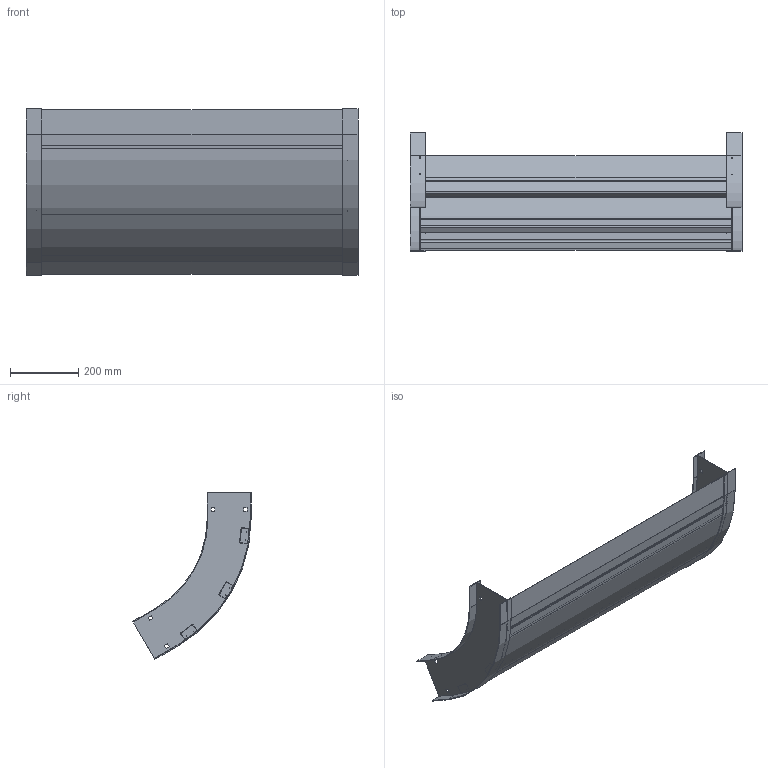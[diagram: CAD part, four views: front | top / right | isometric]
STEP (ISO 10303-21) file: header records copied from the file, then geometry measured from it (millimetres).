
FILE_DESCRIPTION((''),'2;1');
FILE_NAME('AHF536SVI6012_ASM','2010-01-28T',('erouzier'),(''),'PRO/ENGINEER BY PARAMETRIC TECHNOLOGY CORPORATION, 2008510','PRO/ENGINEER BY PARAMETRIC TECHNOLOGY CORPORATION, 2008510','');
FILE_SCHEMA(('CONFIG_CONTROL_DESIGN'));
Length unit declared in the file: inch
Products named in the file (4): CDS001658_5_60_12; CDS002159L36; CDS014130_60_12_36; AHF536SVI6012_ASM
Assembly tree (6 placements, depth 2):
  AHF536SVI6012_ASM
    CDS001658_5_60_12  x2
    CDS002159L36  x3
    CDS014130_60_12_36
Bounding box: 975.61 x 347.55 x 490.01 mm (x, y, z)
Volume: 1413874.4 mm3; surface area: 2205452.1 mm2
Topology: 6 solids, 6 shells, 188 faces, 520 edges, 344 vertices
Faces by surface type: plane 141, cylinder 47
Entity records: 2826 total; most frequent: CARTESIAN_POINT 480, ORIENTED_EDGE 464, DIRECTION 462, EDGE_CURVE 232, VECTOR 194, LINE 194, VERTEX_POINT 152, AXIS2_PLACEMENT_3D 134
